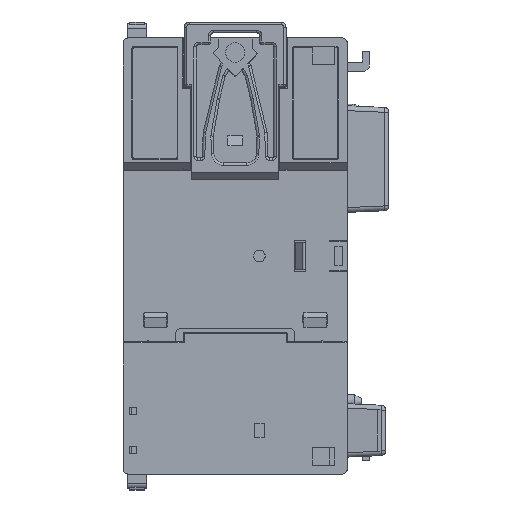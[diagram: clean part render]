
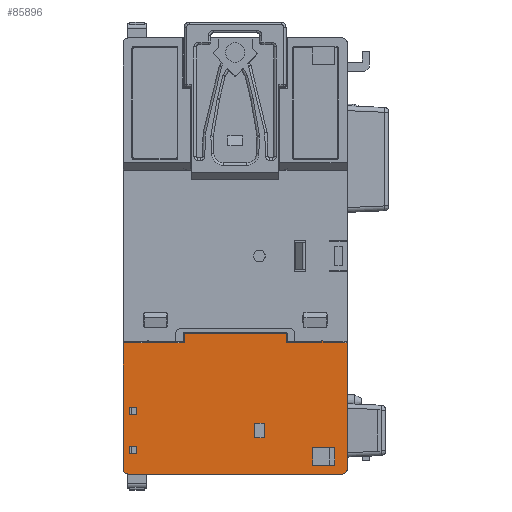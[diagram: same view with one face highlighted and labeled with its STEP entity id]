
A CAD part, front view. The second image highlights one B-rep face of the part: STEP entity #85896.
In plain terms, the highlighted planar face has unit normal (0, -1, 0).
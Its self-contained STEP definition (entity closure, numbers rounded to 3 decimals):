
#18955=DIRECTION('',(0.,0.,-1.));
#18956=VECTOR('',#18955,26.05);
#18957=CARTESIAN_POINT('',(23.1,0.,-17.95));
#18958=LINE('',#18957,#18956);
#18962=DIRECTION('',(-1.,0.,0.));
#18963=VECTOR('',#18962,44.2);
#18964=CARTESIAN_POINT('',(22.1,0.,-45.));
#18965=LINE('',#18964,#18963);
#18969=DIRECTION('',(0.,0.,1.));
#18970=VECTOR('',#18969,26.05);
#18971=CARTESIAN_POINT('',(-23.1,0.,-44.));
#18972=LINE('',#18971,#18970);
#19018=DIRECTION('',(0.,0.,1.));
#19019=VECTOR('',#19018,1.5);
#19020=CARTESIAN_POINT('',(-21.8,0.,-40.75));
#19021=LINE('',#19020,#19019);
#19025=DIRECTION('',(-1.,0.,0.));
#19026=VECTOR('',#19025,1.5);
#19027=CARTESIAN_POINT('',(-20.3,0.,-40.75));
#19028=LINE('',#19027,#19026);
#19032=DIRECTION('',(0.,0.,-1.));
#19033=VECTOR('',#19032,1.5);
#19034=CARTESIAN_POINT('',(-20.3,0.,-39.25));
#19035=LINE('',#19034,#19033);
#19039=DIRECTION('',(1.,0.,0.));
#19040=VECTOR('',#19039,1.5);
#19041=CARTESIAN_POINT('',(-21.8,0.,-39.25));
#19042=LINE('',#19041,#19040);
#19046=DIRECTION('',(0.,0.,1.));
#19047=VECTOR('',#19046,1.5);
#19048=CARTESIAN_POINT('',(-21.8,0.,-32.75));
#19049=LINE('',#19048,#19047);
#19053=DIRECTION('',(-1.,0.,0.));
#19054=VECTOR('',#19053,1.5);
#19055=CARTESIAN_POINT('',(-20.3,0.,-32.75));
#19056=LINE('',#19055,#19054);
#19060=DIRECTION('',(0.,0.,-1.));
#19061=VECTOR('',#19060,1.5);
#19062=CARTESIAN_POINT('',(-20.3,0.,-31.25));
#19063=LINE('',#19062,#19061);
#19067=DIRECTION('',(1.,0.,0.));
#19068=VECTOR('',#19067,1.5);
#19069=CARTESIAN_POINT('',(-21.8,0.,-31.25));
#19070=LINE('',#19069,#19068);
#19074=DIRECTION('',(0.,0.,1.));
#19075=VECTOR('',#19074,3.7);
#19076=CARTESIAN_POINT('',(20.55,0.,-43.2));
#19077=LINE('',#19076,#19075);
#19081=DIRECTION('',(-1.,0.,0.));
#19082=VECTOR('',#19081,4.55);
#19083=CARTESIAN_POINT('',(20.55,0.,-39.5));
#19084=LINE('',#19083,#19082);
#19088=DIRECTION('',(0.,0.,-1.));
#19089=VECTOR('',#19088,3.7);
#19090=CARTESIAN_POINT('',(16.,0.,-39.5));
#19091=LINE('',#19090,#19089);
#19095=DIRECTION('',(1.,0.,0.));
#19096=VECTOR('',#19095,4.55);
#19097=CARTESIAN_POINT('',(16.,0.,-43.2));
#19098=LINE('',#19097,#19096);
#19109=DIRECTION('',(0.,0.,1.));
#19110=VECTOR('',#19109,3.);
#19111=CARTESIAN_POINT('',(4.,0.,-37.5));
#19112=LINE('',#19111,#19110);
#19116=DIRECTION('',(-1.,0.,0.));
#19117=VECTOR('',#19116,2.);
#19118=CARTESIAN_POINT('',(6.,0.,-37.5));
#19119=LINE('',#19118,#19117);
#19123=DIRECTION('',(0.,0.,-1.));
#19124=VECTOR('',#19123,3.);
#19125=CARTESIAN_POINT('',(6.,0.,-34.5));
#19126=LINE('',#19125,#19124);
#19130=DIRECTION('',(1.,0.,0.));
#19131=VECTOR('',#19130,2.);
#19132=CARTESIAN_POINT('',(4.,0.,-34.5));
#19133=LINE('',#19132,#19131);
#19137=DIRECTION('',(-1.,0.,0.));
#19138=VECTOR('',#19137,7.3);
#19139=CARTESIAN_POINT('',(17.85,0.,-17.95));
#19140=LINE('',#19139,#19138);
#19162=DIRECTION('',(0.,0.,1.));
#19163=VECTOR('',#19162,1.95);
#19164=CARTESIAN_POINT('',(10.55,0.,-17.95));
#19165=LINE('',#19164,#19163);
#19194=DIRECTION('',(-1.,0.,0.));
#19195=VECTOR('',#19194,21.1);
#19196=CARTESIAN_POINT('',(10.55,0.,-16.));
#19197=LINE('',#19196,#19195);
#19224=DIRECTION('',(0.,0.,-1.));
#19225=VECTOR('',#19224,1.95);
#19226=CARTESIAN_POINT('',(-10.55,0.,-16.));
#19227=LINE('',#19226,#19225);
#19263=DIRECTION('',(-1.,0.,0.));
#19264=VECTOR('',#19263,7.3);
#19265=CARTESIAN_POINT('',(-10.55,0.,-17.95));
#19266=LINE('',#19265,#19264);
#19362=DIRECTION('',(-1.,0.,0.));
#19363=VECTOR('',#19362,4.95);
#19364=CARTESIAN_POINT('',(-18.15,0.,-17.95));
#19365=LINE('',#19364,#19363);
#19377=CARTESIAN_POINT('',(-18.,0.,-17.75));
#19378=DIRECTION('',(0.,-1.,0.));
#19379=DIRECTION('',(0.6,0.,-0.8));
#19380=AXIS2_PLACEMENT_3D('',#19377,#19378,#19379);
#19400=DIRECTION('',(-1.,0.,0.));
#19401=VECTOR('',#19400,4.95);
#19402=CARTESIAN_POINT('',(23.1,0.,-17.95));
#19403=LINE('',#19402,#19401);
#19418=CARTESIAN_POINT('',(18.,0.,-17.75));
#19419=DIRECTION('',(0.,-1.,0.));
#19420=DIRECTION('',(0.6,0.,-0.8));
#19421=AXIS2_PLACEMENT_3D('',#19418,#19419,#19420);
#19769=CARTESIAN_POINT('',(22.1,0.,-44.));
#19770=DIRECTION('',(0.,-1.,0.));
#19771=DIRECTION('',(0.,0.,-1.));
#19772=AXIS2_PLACEMENT_3D('',#19769,#19770,#19771);
#33957=CARTESIAN_POINT('',(-22.1,0.,-44.));
#33958=DIRECTION('',(0.,-1.,0.));
#33959=DIRECTION('',(-1.,0.,0.));
#33960=AXIS2_PLACEMENT_3D('',#33957,#33958,#33959);
#60617=CARTESIAN_POINT('',(22.1,0.,-45.));
#60618=CARTESIAN_POINT('',(23.1,0.,-44.));
#60619=VERTEX_POINT('',#60617);
#60620=VERTEX_POINT('',#60618);
#60621=CARTESIAN_POINT('',(-23.1,0.,-44.));
#60622=CARTESIAN_POINT('',(-22.1,0.,-45.));
#60623=VERTEX_POINT('',#60621);
#60624=VERTEX_POINT('',#60622);
#60749=CARTESIAN_POINT('',(17.85,0.,-17.95));
#60750=CARTESIAN_POINT('',(10.55,0.,-17.95));
#60751=VERTEX_POINT('',#60749);
#60752=VERTEX_POINT('',#60750);
#60757=CARTESIAN_POINT('',(10.55,0.,-16.));
#60758=VERTEX_POINT('',#60757);
#60771=CARTESIAN_POINT('',(-10.55,0.,-16.));
#60772=VERTEX_POINT('',#60771);
#60773=CARTESIAN_POINT('',(-10.55,0.,-17.95));
#60774=VERTEX_POINT('',#60773);
#60779=CARTESIAN_POINT('',(-17.85,0.,-17.95));
#60780=VERTEX_POINT('',#60779);
#60801=CARTESIAN_POINT('',(-18.15,0.,-17.95));
#60802=CARTESIAN_POINT('',(-23.1,0.,-17.95));
#60803=VERTEX_POINT('',#60801);
#60804=VERTEX_POINT('',#60802);
#60809=CARTESIAN_POINT('',(23.1,0.,-17.95));
#60810=VERTEX_POINT('',#60809);
#60811=CARTESIAN_POINT('',(18.15,0.,-17.95));
#60812=VERTEX_POINT('',#60811);
#61067=CARTESIAN_POINT('',(-21.8,0.,-40.75));
#61068=CARTESIAN_POINT('',(-21.8,0.,-39.25));
#61069=VERTEX_POINT('',#61067);
#61070=VERTEX_POINT('',#61068);
#61071=CARTESIAN_POINT('',(-20.3,0.,-39.25));
#61072=VERTEX_POINT('',#61071);
#61073=CARTESIAN_POINT('',(-20.3,0.,-40.75));
#61074=VERTEX_POINT('',#61073);
#61075=CARTESIAN_POINT('',(-21.8,0.,-32.75));
#61076=CARTESIAN_POINT('',(-21.8,0.,-31.25));
#61077=VERTEX_POINT('',#61075);
#61078=VERTEX_POINT('',#61076);
#61079=CARTESIAN_POINT('',(-20.3,0.,-31.25));
#61080=VERTEX_POINT('',#61079);
#61081=CARTESIAN_POINT('',(-20.3,0.,-32.75));
#61082=VERTEX_POINT('',#61081);
#61095=CARTESIAN_POINT('',(16.,0.,-43.2));
#61096=CARTESIAN_POINT('',(20.55,0.,-43.2));
#61097=VERTEX_POINT('',#61095);
#61098=VERTEX_POINT('',#61096);
#61101=CARTESIAN_POINT('',(4.,0.,-37.5));
#61102=CARTESIAN_POINT('',(4.,0.,-34.5));
#61103=VERTEX_POINT('',#61101);
#61104=VERTEX_POINT('',#61102);
#61105=CARTESIAN_POINT('',(6.,0.,-34.5));
#61106=VERTEX_POINT('',#61105);
#61107=CARTESIAN_POINT('',(6.,0.,-37.5));
#61108=VERTEX_POINT('',#61107);
#62195=CARTESIAN_POINT('',(20.55,0.,-39.5));
#62196=VERTEX_POINT('',#62195);
#62197=CARTESIAN_POINT('',(16.,0.,-39.5));
#62198=VERTEX_POINT('',#62197);
#85826=CARTESIAN_POINT('',(0.,0.,0.));
#85827=DIRECTION('',(0.,1.,0.));
#85828=DIRECTION('',(1.,0.,0.));
#85829=AXIS2_PLACEMENT_3D('',#85826,#85827,#85828);
#85830=PLANE('',#85829);
#85832=ORIENTED_EDGE('',*,*,#85831,.F.);
#85834=ORIENTED_EDGE('',*,*,#85833,.F.);
#85836=ORIENTED_EDGE('',*,*,#85835,.F.);
#85837=ORIENTED_EDGE('',*,*,#75756,.T.);
#85839=ORIENTED_EDGE('',*,*,#85838,.F.);
#85841=ORIENTED_EDGE('',*,*,#85840,.T.);
#85843=ORIENTED_EDGE('',*,*,#85842,.F.);
#85844=ORIENTED_EDGE('',*,*,#84798,.T.);
#85846=ORIENTED_EDGE('',*,*,#85845,.F.);
#85848=ORIENTED_EDGE('',*,*,#85847,.F.);
#85850=ORIENTED_EDGE('',*,*,#85849,.F.);
#85852=ORIENTED_EDGE('',*,*,#85851,.F.);
#85854=ORIENTED_EDGE('',*,*,#85853,.F.);
#85856=ORIENTED_EDGE('',*,*,#85855,.F.);
#85857=EDGE_LOOP('',(#85832,#85834,#85836,#85837,#85839,#85841,#85843,#85844,
#85846,#85848,#85850,#85852,#85854,#85856));
#85858=FACE_OUTER_BOUND('',#85857,.F.);
#85860=ORIENTED_EDGE('',*,*,#85859,.F.);
#85862=ORIENTED_EDGE('',*,*,#85861,.F.);
#85864=ORIENTED_EDGE('',*,*,#85863,.F.);
#85866=ORIENTED_EDGE('',*,*,#85865,.F.);
#85867=EDGE_LOOP('',(#85860,#85862,#85864,#85866));
#85868=FACE_BOUND('',#85867,.F.);
#85870=ORIENTED_EDGE('',*,*,#85869,.F.);
#85871=ORIENTED_EDGE('',*,*,#85745,.F.);
#85873=ORIENTED_EDGE('',*,*,#85872,.F.);
#85875=ORIENTED_EDGE('',*,*,#85874,.F.);
#85876=EDGE_LOOP('',(#85870,#85871,#85873,#85875));
#85877=FACE_BOUND('',#85876,.F.);
#85879=ORIENTED_EDGE('',*,*,#85878,.T.);
#85881=ORIENTED_EDGE('',*,*,#85880,.T.);
#85882=ORIENTED_EDGE('',*,*,#85819,.T.);
#85883=ORIENTED_EDGE('',*,*,#75678,.T.);
#85884=EDGE_LOOP('',(#85879,#85881,#85882,#85883));
#85885=FACE_BOUND('',#85884,.F.);
#85887=ORIENTED_EDGE('',*,*,#85886,.F.);
#85889=ORIENTED_EDGE('',*,*,#85888,.F.);
#85891=ORIENTED_EDGE('',*,*,#85890,.F.);
#85893=ORIENTED_EDGE('',*,*,#85892,.F.);
#85894=EDGE_LOOP('',(#85887,#85889,#85891,#85893));
#85895=FACE_BOUND('',#85894,.F.);
#85896=ADVANCED_FACE('',(#85858,#85868,#85877,#85885,#85895),#85830,.F.);
#19381=CIRCLE('',#19380,0.25);
#19422=CIRCLE('',#19421,0.25);
#19773=CIRCLE('',#19772,1.);
#33961=CIRCLE('',#33960,1.);
#75678=EDGE_CURVE('',#61097,#61098,#19098,.T.);
#75756=EDGE_CURVE('',#60810,#60620,#18958,.T.);
#84798=EDGE_CURVE('',#60623,#60804,#18972,.T.);
#85745=EDGE_CURVE('',#61082,#61077,#19056,.T.);
#85819=EDGE_CURVE('',#62198,#61097,#19091,.T.);
#85831=EDGE_CURVE('',#60751,#60752,#19140,.T.);
#85833=EDGE_CURVE('',#60812,#60751,#19422,.T.);
#85835=EDGE_CURVE('',#60810,#60812,#19403,.T.);
#85838=EDGE_CURVE('',#60619,#60620,#19773,.T.);
#85840=EDGE_CURVE('',#60619,#60624,#18965,.T.);
#85842=EDGE_CURVE('',#60623,#60624,#33961,.T.);
#85845=EDGE_CURVE('',#60803,#60804,#19365,.T.);
#85847=EDGE_CURVE('',#60780,#60803,#19381,.T.);
#85849=EDGE_CURVE('',#60774,#60780,#19266,.T.);
#85851=EDGE_CURVE('',#60772,#60774,#19227,.T.);
#85853=EDGE_CURVE('',#60758,#60772,#19197,.T.);
#85855=EDGE_CURVE('',#60752,#60758,#19165,.T.);
#85859=EDGE_CURVE('',#61069,#61070,#19021,.T.);
#85861=EDGE_CURVE('',#61074,#61069,#19028,.T.);
#85863=EDGE_CURVE('',#61072,#61074,#19035,.T.);
#85865=EDGE_CURVE('',#61070,#61072,#19042,.T.);
#85869=EDGE_CURVE('',#61077,#61078,#19049,.T.);
#85872=EDGE_CURVE('',#61080,#61082,#19063,.T.);
#85874=EDGE_CURVE('',#61078,#61080,#19070,.T.);
#85878=EDGE_CURVE('',#61098,#62196,#19077,.T.);
#85880=EDGE_CURVE('',#62196,#62198,#19084,.T.);
#85886=EDGE_CURVE('',#61103,#61104,#19112,.T.);
#85888=EDGE_CURVE('',#61108,#61103,#19119,.T.);
#85890=EDGE_CURVE('',#61106,#61108,#19126,.T.);
#85892=EDGE_CURVE('',#61104,#61106,#19133,.T.);
